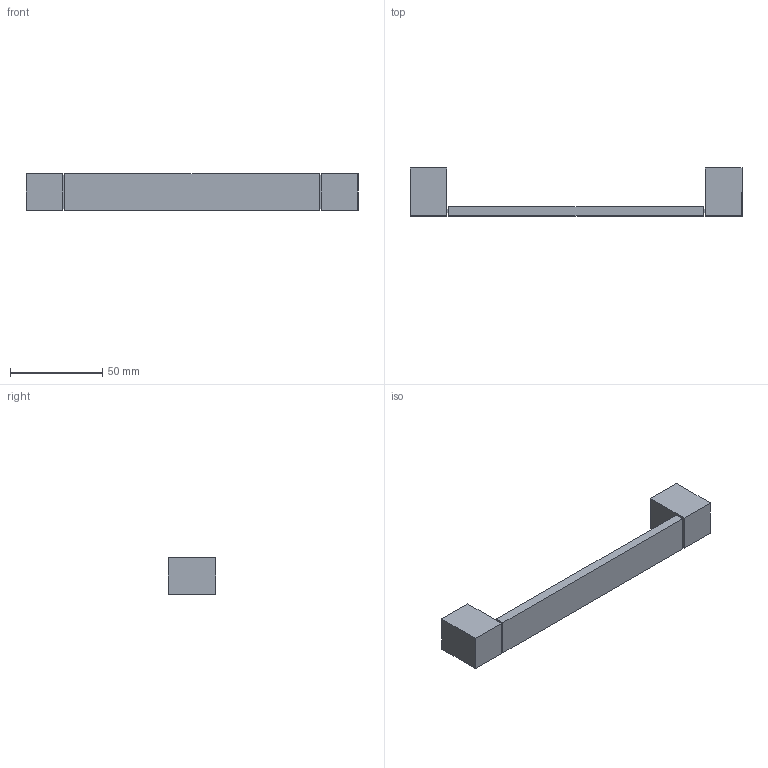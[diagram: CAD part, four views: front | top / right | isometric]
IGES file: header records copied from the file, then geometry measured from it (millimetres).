
Start section: Data from Parasolid IGES Translator 20.0.26, Copyright(c) 2006 Siemens P LM Software. All Rights Reserved.
Global section: file name: 9264060.igs; native system: By Siemens PLM Incorporated; preprocessor: XPlus GENERIC/IGES 20.0.26; author: Noname; organization: Noname; date: 20200630.114856; units: millimetre
Bounding box: 180 x 26 x 20 mm (x, y, z)
Surface area: 12959.4 mm2 (no closed solid volume)
Topology: 0 solids, 0 shells, 30 faces, 132 edges, 130 vertices
Faces by surface type: extrusion 28, revolution 2
